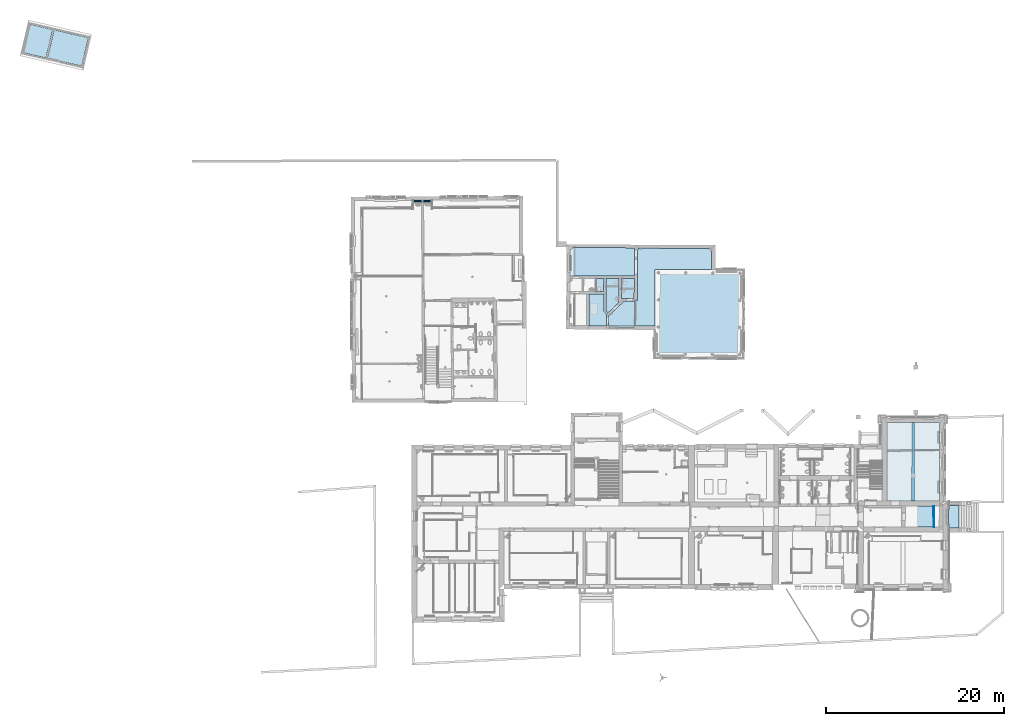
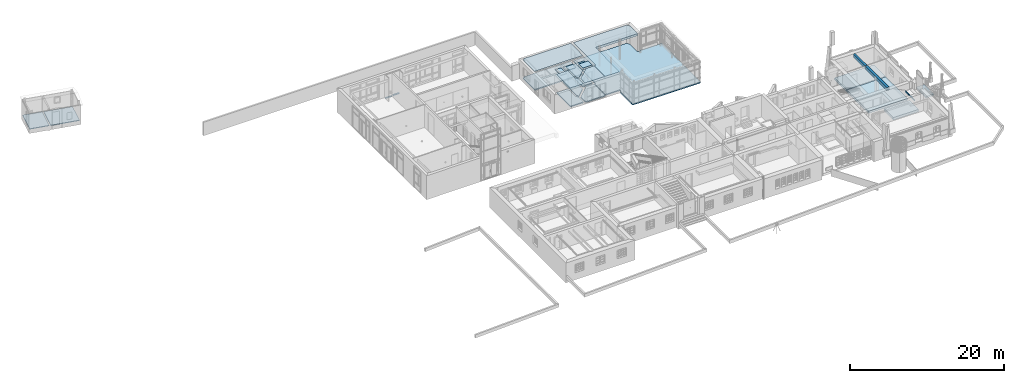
# One storey, part 14 of 196: 26 slabs.
"""IFC2X3 building model written with IfcOpenShell, lengths in metres."""

from ifc_helpers import new_model, entity, si_unit, converted_unit, derived_unit, money_unit, direction, frame, origin_with_axes, place, context, subcontext, project, spatial, polyline, outline, extrude, material, layer, layer_set, layer_usage, type_object, element, save


model = new_model("IFC2X3")

# Units and contexts
model_context = context("Model", 3, precision=1e-05, world=origin_with_axes(), true_north=direction((0.0, 1.0)))
body_context = subcontext(model_context, "Body", "Model", "MODEL_VIEW")
ifc_project = project(units=[si_unit("LENGTHUNIT", "METRE"), si_unit("AREAUNIT", "SQUARE_METRE"), si_unit("VOLUMEUNIT", "CUBIC_METRE"), converted_unit("PLANEANGLEUNIT", "DEGREE", entity("IfcPlaneAngleMeasure", 0.0174532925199), si_unit("PLANEANGLEUNIT", "RADIAN"), dimensions=[0, 0, 0, 0, 0, 0, 0]), money_unit("EUR"), converted_unit("TIMEUNIT", "Year", entity("IfcTimeMeasure", 31556926.0), si_unit("TIMEUNIT", "SECOND"), dimensions=[0, 0, 1, 0, 0, 0, 0]), si_unit("MASSUNIT", "GRAM", prefix="KILO"), si_unit("THERMODYNAMICTEMPERATUREUNIT", "DEGREE_CELSIUS"), si_unit("LUMINOUSINTENSITYUNIT", "LUMEN"), si_unit("ENERGYUNIT", "JOULE", prefix="MEGA"), derived_unit("THERMALCONDUCTANCEUNIT", [(si_unit("POWERUNIT", "WATT"), 1), (si_unit("LENGTHUNIT", "METRE"), -1), (si_unit("THERMODYNAMICTEMPERATUREUNIT", "KELVIN"), -1)]), derived_unit("SPECIFICHEATCAPACITYUNIT", [(si_unit("ENERGYUNIT", "JOULE"), 1), (si_unit("MASSUNIT", "GRAM", prefix="KILO"), -1), (si_unit("THERMODYNAMICTEMPERATUREUNIT", "KELVIN"), -1)]), derived_unit("MASSDENSITYUNIT", [(si_unit("MASSUNIT", "GRAM", prefix="KILO"), 1), (si_unit("VOLUMEUNIT", "CUBIC_METRE"), -1)])], contexts=[model_context])

# Site, building, storey
site_placement = place(None, origin_with_axes())
site = spatial("IfcSite", under=ifc_project, at=site_placement, Name="Gelände", CompositionType="ELEMENT")
building_placement = place(site_placement, origin_with_axes())
building = spatial("IfcBuilding", under=site, at=building_placement, Name="Gebäude", CompositionType="ELEMENT")
storey_placement = place(building_placement, frame((0.0, 0.0, -3.0), z_axis=(0.0, 0.0, 1.0), x_axis=(1.0, 0.0, 0.0)))
storey = spatial("IfcBuildingStorey", under=building, at=storey_placement, Name="KELLERGESCHOSS", CompositionType="ELEMENT", Elevation=-3.0)

# Slabs
ifc_material_1 = material(Name="05_ALLGEMEIN - TRAGENDE BAUTEILE")
ifc_layer_1 = layer(ifc_material_1, 0.33, ventilated="UNKNOWN")
ifc_layer_set_1 = layer_set([ifc_layer_1], Name="05_ALLGEMEIN - TRAGENDE BAUTEILE 0.33")
ifc_layer_usage_1 = layer_usage(ifc_layer_set_1, "AXIS3", "NEGATIVE", 0.33)
slab_type_1 = type_object("IfcSlabType", Name="05_ALLGEMEIN - TRAGENDE BAUTEILE 330", PredefinedType="NOTDEFINED")
slab_1_placement = place(storey_placement, frame((25.2270900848, 25.4170093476, -0.03), z_axis=(0.0, 0.0, 1.0), x_axis=(1.0, 0.0, 0.0)))
element("IfcSlab", 1, at=slab_1_placement, inside=storey, type_object=slab_type_1, material=ifc_layer_usage_1, Name="Belag-005", PredefinedType="NOTDEFINED", context=body_context, shape_type="SweptSolid", body=[
    extrude(outline(polyline([(0.0, 0.0), (-0.000826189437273, -5.59675638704), (5.87001330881, -5.62821278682), (5.86809462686, 0.0660130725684), (0.0, 0.0)])), frame((0.0, 0.0, -0.33), z_axis=(0.0, 0.0, 1.0), x_axis=(1.0, 0.0, 0.0)), (0.0, 0.0, 1.0), 0.33),
])
ifc_layer_2 = layer(ifc_material_1, 0.35, ventilated="UNKNOWN")
ifc_layer_set_2 = layer_set([ifc_layer_2], Name="05_ALLGEMEIN - TRAGENDE BAUTEILE 0.35")
ifc_layer_usage_2 = layer_usage(ifc_layer_set_2, "AXIS3", "NEGATIVE", 0.35)
slab_type_2 = type_object("IfcSlabType", Name="05_ALLGEMEIN - TRAGENDE BAUTEILE 350", PredefinedType="NOTDEFINED")
slab_2_placement = place(storey_placement, frame((-6.01418529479, 40.5972754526, 3.15), z_axis=(0.0, 0.0, 1.0), x_axis=(1.0, 0.0, 0.0)))
element("IfcSlab", 2, at=slab_2_placement, inside=storey, type_object=slab_type_2, material=ifc_layer_usage_2, Name="Belag-009", PredefinedType="NOTDEFINED", context=body_context, shape_type="SweptSolid", body=[
    extrude(outline(polyline([(0.0, 0.0), (-0.0184592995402, -1.11730356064), (2.94322210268, -1.14171704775), (2.96984695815, 1.68217723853), (1.74452241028, 1.66157661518), (0.0, 0.0)])), origin_with_axes(), (0.0, 0.0, 1.0), 0.35),
])
ifc_layer_3 = layer(ifc_material_1, 0.21, ventilated="UNKNOWN")
ifc_layer_set_3 = layer_set([ifc_layer_3], Name="05_ALLGEMEIN - TRAGENDE BAUTEILE 0.21")
ifc_layer_usage_3 = layer_usage(ifc_layer_set_3, "AXIS3", "NEGATIVE", 0.21)
slab_type_3 = type_object("IfcSlabType", Name="05_ALLGEMEIN - TRAGENDE BAUTEILE 210", PredefinedType="NOTDEFINED")
slab_3_placement = place(storey_placement, frame((-10.1119303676, 48.2605082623, 3.29), z_axis=(0.0, 0.0, 1.0), x_axis=(1.0, 0.0, 0.0)))
element("IfcSlab", 3, at=slab_3_placement, inside=storey, type_object=slab_type_3, material=ifc_layer_usage_3, Name="Belag-005", PredefinedType="NOTDEFINED", context=body_context, shape_type="SweptSolid", body=[
    extrude(outline(polyline([(0.0, 0.0), (0.00303302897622, -0.163163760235), (-0.234338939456, -0.158524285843), (-0.251513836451, -3.22836900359), (1.15072332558, -3.2279998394), (6.97866815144, -3.22646548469), (7.0003282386, -0.0401684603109), (0.0, 0.0)])), origin_with_axes(), (0.0, 0.0, 1.0), 0.21),
])
ifc_layer_4 = layer(ifc_material_1, 0.17, ventilated="UNKNOWN")
ifc_layer_set_4 = layer_set([ifc_layer_4], Name="05_ALLGEMEIN - TRAGENDE BAUTEILE 0.17")
ifc_layer_usage_4 = layer_usage(ifc_layer_set_4, "AXIS3", "NEGATIVE", 0.17)
slab_type_4 = type_object("IfcSlabType", Name="05_ALLGEMEIN - TRAGENDE BAUTEILE 170", PredefinedType="NOTDEFINED")
slab_4_placement = place(storey_placement, frame((-25.8898027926, 53.5630437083, 0.42), z_axis=(0.0, 0.0, 1.0), x_axis=(1.0, 0.0, 0.0)))
element("IfcSlab", 4, at=slab_4_placement, inside=storey, type_object=slab_type_4, material=ifc_layer_usage_4, Name="Belag-007", PredefinedType="NOTDEFINED", context=body_context, shape_type="SweptSolid", body=[
    extrude(outline(polyline([(0.0, 0.0), (-0.891822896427, -0.0052686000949), (-0.890639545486, -0.157434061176), (0.0, -0.156927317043), (0.0, 0.0)])), frame((0.0, 0.0, -0.17), z_axis=(0.0, 0.0, 1.0), x_axis=(1.0, 0.0, 0.0)), (0.0, 0.0, 1.0), 0.17),
])
ifc_layer_usage_5 = layer_usage(ifc_layer_set_4, "AXIS3", "NEGATIVE", 0.17)
slab_5_placement = place(storey_placement, frame((-2.75188747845, 48.1771400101, 0.61), z_axis=(0.0, 0.0, 1.0), x_axis=(1.0, 0.0, 0.0)))
element("IfcSlab", 5, at=slab_5_placement, inside=storey, type_object=slab_type_4, material=ifc_layer_usage_5, Name="Belag-008", PredefinedType="NOTDEFINED", context=body_context, shape_type="SweptSolid", body=[
    extrude(outline(polyline([(0.0, 0.0), (-0.0400630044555, -5.89344406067), (-0.23243867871, -5.89667835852), (-0.259077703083, -8.72207617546), (1.90869729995, -8.73994538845), (1.90515288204, -9.16993078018), (1.77674345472, -9.16887228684), (1.76117753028, -12.3925113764), (11.9331722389, -12.4651372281), (11.9848443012, -2.29175273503), (8.73729445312, -2.27346098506), (8.73783220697, -2.40534629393), (8.27783621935, -2.40342499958), (8.2862325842, -0.393168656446), (7.95628604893, -0.0223752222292), (0.0, 0.0)])), frame((0.0, 0.0, -0.17), z_axis=(0.0, 0.0, 1.0), x_axis=(1.0, 0.0, 0.0)), (0.0, 0.0, 1.0), 0.17),
])
ifc_layer_usage_6 = layer_usage(ifc_layer_set_4, "AXIS3", "NEGATIVE", 0.17)
slab_6_placement = place(storey_placement, frame((-6.01418529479, 40.5972754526, 0.61), z_axis=(0.0, 0.0, 1.0), x_axis=(1.0, 0.0, 0.0)))
element("IfcSlab", 6, at=slab_6_placement, inside=storey, type_object=slab_type_4, material=ifc_layer_usage_6, Name="Belag-008", PredefinedType="NOTDEFINED", context=body_context, shape_type="SweptSolid", body=[
    extrude(outline(polyline([(0.0, 0.0), (-0.0184592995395, -1.11730357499), (0.0272299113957, -1.11768019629), (0.0253163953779, -1.28027011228), (2.85915778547, -1.30981047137), (2.85973533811, -1.14102885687), (2.94322210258, -1.14171704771), (2.96984695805, 1.68217723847), (1.74452241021, 1.66157661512), (0.0, 0.0)])), frame((0.0, 0.0, -0.17), z_axis=(0.0, 0.0, 1.0), x_axis=(1.0, 0.0, 0.0)), (0.0, 0.0, 1.0), 0.17),
])
ifc_layer_usage_7 = layer_usage(ifc_layer_set_4, "AXIS3", "NEGATIVE", 0.17)
slab_7_placement = place(storey_placement, frame((-10.3462693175, 48.1019839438, 0.61), z_axis=(0.0, 0.0, 1.0), x_axis=(1.0, 0.0, 0.0)))
element("IfcSlab", 7, at=slab_7_placement, inside=storey, type_object=slab_type_4, material=ifc_layer_usage_7, Name="Belag-008", PredefinedType="NOTDEFINED", context=body_context, shape_type="SweptSolid", body=[
    extrude(outline(polyline([(0.0, 0.0), (-0.0171748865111, -3.06984468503), (1.38506230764, -3.06947554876), (7.21300712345, -3.06794119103), (7.23466718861, 0.118355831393), (0.23433896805, 0.158524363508), (0.237372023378, -0.00463948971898), (0.0, 0.0)])), frame((0.0, 0.0, -0.17), z_axis=(0.0, 0.0, 1.0), x_axis=(1.0, 0.0, 0.0)), (0.0, 0.0, 1.0), 0.17),
])
ifc_layer_5 = layer(ifc_material_1, 0.2, ventilated="UNKNOWN")
ifc_layer_set_5 = layer_set([ifc_layer_5], Name="05_ALLGEMEIN - TRAGENDE BAUTEILE 0.2")
ifc_layer_usage_8 = layer_usage(ifc_layer_set_5, "AXIS3", "NEGATIVE", 0.2)
slab_type_5 = type_object("IfcSlabType", Name="05_ALLGEMEIN - TRAGENDE BAUTEILE 200", PredefinedType="NOTDEFINED")
slab_8_placement = place(storey_placement, frame((-8.23558256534, 43.0463947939, 3.3), z_axis=(0.0, 0.0, 1.0), x_axis=(1.0, 0.0, 0.0)))
element("IfcSlab", 8, at=slab_8_placement, inside=storey, type_object=slab_type_5, material=ifc_layer_usage_8, Name="Belag-008", PredefinedType="NOTDEFINED", context=body_context, shape_type="SweptSolid", body=[
    extrude(outline(polyline([(0.0, 0.0), (-0.0157443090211, -3.60813609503), (1.95888432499, -3.62441319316), (1.96293789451, -3.56444458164), (1.98359822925, -2.31391525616), (1.92609994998, -2.25013885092), (1.68135181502, -1.97866735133), (1.69184433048, -0.00149829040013), (0.0, 0.0)])), origin_with_axes(), (0.0, 0.0, 1.0), 0.2),
])
ifc_layer_6 = layer(ifc_material_1, 0.36, ventilated="UNKNOWN")
ifc_layer_set_6 = layer_set([ifc_layer_6], Name="05_ALLGEMEIN - TRAGENDE BAUTEILE 0.36")
ifc_layer_usage_9 = layer_usage(ifc_layer_set_6, "AXIS3", "NEGATIVE", 0.36)
slab_type_6 = type_object("IfcSlabType", Name="05_ALLGEMEIN - TRAGENDE BAUTEILE 360", PredefinedType="NOTDEFINED")
slab_9_placement = place(storey_placement, frame((-2.98432616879, 42.2804616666, 3.14), z_axis=(0.0, 0.0, 1.0), x_axis=(1.0, 0.0, 0.0)))
element("IfcSlab", 9, at=slab_9_placement, inside=storey, type_object=slab_type_6, material=ifc_layer_usage_9, Name="Belag-010", PredefinedType="NOTDEFINED", context=body_context, shape_type="SweptSolid", body=[
    extrude(outline(polyline([(0.0, 0.0), (-0.0266390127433, -2.82539780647), (2.14116503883, -2.84326728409), (2.17822809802, 3.49054782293), (8.51027486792, 3.49325333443), (8.51867127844, 5.50350972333), (8.18872468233, 5.87430310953), (0.232438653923, 5.89667834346), (0.192375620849, 0.00323426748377), (0.0, 0.0)])), origin_with_axes(), (0.0, 0.0, 1.0), 0.36),
])
ifc_layer_7 = layer(ifc_material_1, 0.1, ventilated="UNKNOWN")
ifc_layer_set_7 = layer_set([ifc_layer_7], Name="05_ALLGEMEIN - TRAGENDE BAUTEILE 0.1")
ifc_layer_usage_10 = layer_usage(ifc_layer_set_7, "AXIS3", "NEGATIVE", 0.1)
slab_type_7 = type_object("IfcSlabType", Name="05_ALLGEMEIN - TRAGENDE BAUTEILE 100", PredefinedType="NOTDEFINED")
slab_10_placement = place(storey_placement, frame((-27.9206073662, 53.4049609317, 0.35), z_axis=(0.0, 0.0, 1.0), x_axis=(1.0, 0.0, 0.0)))
element("IfcSlab", 10, at=slab_10_placement, inside=storey, type_object=slab_type_7, material=ifc_layer_usage_10, Name="Belag-008", PredefinedType="NOTDEFINED", context=body_context, shape_type="SweptSolid", body=[
    extrude(outline(polyline([(0.0, 0.0), (0.890158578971, 0.000506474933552), (0.888985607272, 0.151337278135), (0.000498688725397, 0.146088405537), (0.0, 0.0)])), frame((0.0, 0.0, -0.1), z_axis=(0.0, 0.0, 1.0), x_axis=(1.0, 0.0, 0.0)), (0.0, 0.0, 1.0), 0.1),
])
ifc_layer_usage_11 = layer_usage(ifc_layer_set_7, "AXIS3", "NEGATIVE", 0.1)
slab_11_placement = place(storey_placement, frame((-71.0076553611, 73.313521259, 0.645), z_axis=(0.0, 0.0, 1.0), x_axis=(1.0, 0.0, 0.0)))
element("IfcSlab", 11, at=slab_11_placement, inside=storey, type_object=slab_type_7, material=ifc_layer_usage_11, Name="Belag-008", PredefinedType="NOTDEFINED", context=body_context, shape_type="SweptSolid", body=[
    extrude(outline(polyline([(0.0, 0.0), (-0.756910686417, -3.18830040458), (1.83672037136, -3.78527384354), (2.61550828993, -0.603147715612), (0.0, 0.0)])), frame((0.0, 0.0, -0.1), z_axis=(0.0, 0.0, 1.0), x_axis=(1.0, 0.0, 0.0)), (0.0, 0.0, 1.0), 0.1),
])
ifc_layer_usage_12 = layer_usage(ifc_layer_set_7, "AXIS3", "NEGATIVE", 0.1)
slab_12_placement = place(storey_placement, frame((-68.9998188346, 69.4888617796, 0.63), z_axis=(0.0, 0.0, 1.0), x_axis=(1.0, 0.0, 0.0)))
element("IfcSlab", 12, at=slab_12_placement, inside=storey, type_object=slab_type_7, material=ifc_layer_usage_12, Name="Belag-008", PredefinedType="NOTDEFINED", context=body_context, shape_type="SweptSolid", body=[
    extrude(outline(polyline([(0.0, 0.0), (3.86045572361, -0.888557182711), (4.60445413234, 2.29983622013), (0.778770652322, 3.18205559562), (0.0, 0.0)])), frame((0.0, 0.0, -0.1), z_axis=(0.0, 0.0, 1.0), x_axis=(1.0, 0.0, 0.0)), (0.0, 0.0, 1.0), 0.1),
])
ifc_layer_8 = layer(ifc_material_1, 0.13, ventilated="UNKNOWN")
ifc_layer_set_8 = layer_set([ifc_layer_8], Name="05_ALLGEMEIN - TRAGENDE BAUTEILE 0.13")
ifc_layer_usage_13 = layer_usage(ifc_layer_set_8, "AXIS3", "NEGATIVE", 0.13)
slab_type_8 = type_object("IfcSlabType", Name="05_ALLGEMEIN - TRAGENDE BAUTEILE 130", PredefinedType="NOTDEFINED")
slab_13_placement = place(storey_placement, frame((30.4338383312, 16.885732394, 1.61), z_axis=(0.0, 0.0, 1.0), x_axis=(1.0, 0.0, 0.0)))
element("IfcSlab", 13, at=slab_13_placement, inside=storey, type_object=slab_type_8, material=ifc_layer_usage_13, Name="Belag-011", PredefinedType="NOTDEFINED", context=body_context, shape_type="SweptSolid", body=[
    extrude(outline(polyline([(0.0, 0.0), (0.0783243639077, -8.99518075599e-05), (0.065665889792, 2.3568522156), (-0.00714418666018, 2.35724233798), (0.0, 0.0)])), origin_with_axes(), (0.0, 0.0, 1.0), 0.13),
])
ifc_layer_9 = layer(ifc_material_1, 0.34, ventilated="UNKNOWN")
ifc_layer_set_9 = layer_set([ifc_layer_9], Name="05_ALLGEMEIN - TRAGENDE BAUTEILE 0.34")
ifc_layer_usage_14 = layer_usage(ifc_layer_set_9, "AXIS3", "NEGATIVE", 0.34)
slab_type_9 = type_object("IfcSlabType", Name="05_ALLGEMEIN - TRAGENDE BAUTEILE 340", PredefinedType="NOTDEFINED")
slab_14_placement = place(storey_placement, frame((25.2275604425, 28.6035319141, -0.02), z_axis=(0.0, 0.0, 1.0), x_axis=(1.0, 0.0, 0.0)))
element("IfcSlab", 14, at=slab_14_placement, inside=storey, type_object=slab_type_9, material=ifc_layer_usage_14, Name="Belag-006", PredefinedType="NOTDEFINED", context=body_context, shape_type="SweptSolid", body=[
    extrude(outline(polyline([(0.0, 0.0), (-0.000455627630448, -3.08651606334), (5.88759049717, -3.02027852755), (5.88657132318, 0.00435281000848), (0.0, 0.0)])), frame((0.0, 0.0, -0.34), z_axis=(0.0, 0.0, 1.0), x_axis=(1.0, 0.0, 0.0)), (0.0, 0.0, 1.0), 0.34),
])
ifc_layer_10 = layer(ifc_material_1, 0.16, ventilated="UNKNOWN")
ifc_layer_set_10 = layer_set([ifc_layer_10], Name="05_ALLGEMEIN - TRAGENDE BAUTEILE 0.16")
ifc_layer_usage_15 = layer_usage(ifc_layer_set_10, "AXIS3", "NEGATIVE", 0.16)
slab_type_10 = type_object("IfcSlabType", Name="05_ALLGEMEIN - TRAGENDE BAUTEILE 160", PredefinedType="NOTDEFINED")
slab_15_placement = place(storey_placement, frame((-8.2513268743, 39.4382586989, 0.6), z_axis=(0.0, 0.0, 1.0), x_axis=(1.0, 0.0, 0.0)))
element("IfcSlab", 15, at=slab_15_placement, inside=storey, type_object=slab_type_10, material=ifc_layer_usage_15, Name="Belag-008", PredefinedType="NOTDEFINED", context=body_context, shape_type="SweptSolid", body=[
    extrude(outline(polyline([(0.0, 0.0), (1.97818764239, -0.0163064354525), (1.99934302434, 1.29422029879), (1.69709612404, 1.6294687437), (1.7075886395, 3.60663780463), (0.0157443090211, 3.60813609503), (0.0, 0.0)])), frame((0.0, 0.0, -0.16), z_axis=(0.0, 0.0, 1.0), x_axis=(1.0, 0.0, 0.0)), (0.0, 0.0, 1.0), 0.16),
])
ifc_layer_usage_16 = layer_usage(ifc_layer_set_10, "AXIS3", "NEGATIVE", 0.16)
slab_16_placement = place(storey_placement, frame((-4.58453824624, 44.7736606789, 0.6), z_axis=(0.0, 0.0, 1.0), x_axis=(1.0, 0.0, 0.0)))
element("IfcSlab", 16, at=slab_16_placement, inside=storey, type_object=slab_type_10, material=ifc_layer_usage_16, Name="Belag-009", PredefinedType="NOTDEFINED", context=body_context, shape_type="SweptSolid", body=[
    extrude(outline(polyline([(0.0, 0.0), (-0.0102979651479, -2.25023741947), (0.456396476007, -2.24239116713), (1.43437420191, -2.22594901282), (1.44950855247, 0.000381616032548), (0.125812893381, 3.31344265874e-05), (0.0, 0.0)])), frame((0.0, 0.0, -0.16), z_axis=(0.0, 0.0, 1.0), x_axis=(1.0, 0.0, 0.0)), (0.0, 0.0, 1.0), 0.16),
])
ifc_layer_usage_17 = layer_usage(ifc_layer_set_10, "AXIS3", "NEGATIVE", 0.16)
slab_17_placement = place(storey_placement, frame((-6.31373606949, 43.0446928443, 0.6), z_axis=(0.0, 0.0, 1.0), x_axis=(1.0, 0.0, 0.0)))
element("IfcSlab", 17, at=slab_17_placement, inside=storey, type_object=slab_type_10, material=ifc_layer_usage_17, Name="Belag-009", PredefinedType="NOTDEFINED", context=body_context, shape_type="SweptSolid", body=[
    extrude(outline(polyline([(0.0, 0.0), (-0.0100252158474, -1.88911310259), (0.216241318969, -2.14008508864), (1.42676490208, -0.987117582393), (1.43919444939, 1.72889148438), (0.0091729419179, 1.72851501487), (0.0, 0.0)])), frame((0.0, 0.0, -0.16), z_axis=(0.0, 0.0, 1.0), x_axis=(1.0, 0.0, 0.0)), (0.0, 0.0, 1.0), 0.16),
])
ifc_layer_11 = layer(ifc_material_1, 0.28, ventilated="UNKNOWN")
ifc_layer_set_11 = layer_set([ifc_layer_11], Name="05_ALLGEMEIN - TRAGENDE BAUTEILE 0.28")
ifc_layer_usage_18 = layer_usage(ifc_layer_set_11, "AXIS3", "NEGATIVE", 0.28)
slab_type_11 = type_object("IfcSlabType", Name="05_ALLGEMEIN - TRAGENDE BAUTEILE 280", PredefinedType="NOTDEFINED")
slab_18_placement = place(storey_placement, frame((-6.30918612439, 43.902070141, 3.22), z_axis=(0.0, 0.0, 1.0), x_axis=(1.0, 0.0, 0.0)))
element("IfcSlab", 18, at=slab_18_placement, inside=storey, type_object=slab_type_11, material=ifc_layer_usage_18, Name="Belag-006", PredefinedType="NOTDEFINED", context=body_context, shape_type="SweptSolid", body=[
    extrude(outline(polyline([(0.0, 0.0), (-0.0145751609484, -2.74649040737), (0.211691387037, -2.99746238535), (1.42221497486, -1.84449486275), (1.43064435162, -0.0025671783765), (0.0, 0.0)])), origin_with_axes(), (0.0, 0.0, 1.0), 0.28),
])
ifc_layer_usage_19 = layer_usage(ifc_layer_set_11, "AXIS3", "NEGATIVE", 0.28)
slab_19_placement = place(storey_placement, frame((-4.58987174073, 43.6082245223, 3.22), z_axis=(0.0, 0.0, 1.0), x_axis=(1.0, 0.0, 0.0)))
element("IfcSlab", 19, at=slab_19_placement, inside=storey, type_object=slab_type_11, material=ifc_layer_usage_19, Name="Belag-007", PredefinedType="NOTDEFINED", context=body_context, shape_type="SweptSolid", body=[
    extrude(outline(polyline([(0.0, 0.0), (-0.0049644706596, -1.08480126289), (1.43970769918, -1.06051284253), (1.44705962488, 0.0209886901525), (0.0, 0.0)])), origin_with_axes(), (0.0, 0.0, 1.0), 0.28),
])
ifc_layer_12 = layer(ifc_material_1, 0.385307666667, ventilated="UNKNOWN")
ifc_layer_set_12 = layer_set([ifc_layer_12], Name="05_ALLGEMEIN - TRAGENDE BAUTEILE 0.385308")
ifc_layer_usage_20 = layer_usage(ifc_layer_set_12, "AXIS3", "NEGATIVE", 0.385307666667)
slab_type_12 = type_object("IfcSlabType", Name="05_ALLGEMEIN - TRAGENDE BAUTEILE 385", PredefinedType="NOTDEFINED")
slab_20_placement = place(storey_placement, frame((27.2709101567, 19.2598836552, 0.0253076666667), z_axis=(0.0, 0.0, 1.0), x_axis=(1.0, 0.0, 0.0)))
element("IfcSlab", 20, at=slab_20_placement, inside=storey, type_object=slab_type_12, material=ifc_layer_usage_20, Name="Belag-004", PredefinedType="NOTDEFINED", context=body_context, shape_type="SweptSolid", body=[
    extrude(outline(polyline([(0.0, 0.0), (-0.0155136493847, -2.37050097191), (3.79196659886, -2.37487368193), (3.82511552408, -0.0204952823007), (0.0, 0.0)])), frame((0.0, 0.0, -0.385307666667), z_axis=(0.0, 0.0, 1.0), x_axis=(1.0, 0.0, 0.0)), (0.0, 0.0, 1.0), 0.385307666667),
])
ifc_material_2 = material(Name="01_ALLGEMEIN - BAUTEIL")
ifc_layer_13 = layer(ifc_material_2, 0.06, ventilated="UNKNOWN")
ifc_layer_set_13 = layer_set([ifc_layer_13], Name="01_ALLGEMEIN - BAUTEIL 0.06")
ifc_layer_usage_21 = layer_usage(ifc_layer_set_13, "AXIS3", "NEGATIVE", 0.06)
slab_type_13 = type_object("IfcSlabType", Name="01_ALLGEMEIN - BAUTEIL 60", PredefinedType="NOTDEFINED")
slab_21_placement = place(storey_placement, frame((-6.30456314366, 44.7732078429, 2.82), z_axis=(0.0, 0.0, 1.0), x_axis=(1.0, 0.0, 0.0)))
element("IfcSlab", 21, at=slab_21_placement, inside=storey, type_object=slab_type_13, material=ifc_layer_usage_21, Name="Belag-004", PredefinedType="NOTDEFINED", context=body_context, shape_type="SweptSolid", body=[
    extrude(outline(polyline([(0.0, 0.0), (-0.00478218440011, -0.901137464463), (1.42588408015, -0.903704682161), (1.43002152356, 0.000376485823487), (0.0, 0.0)])), origin_with_axes(), (0.0, 0.0, 1.0), 0.06),
])
ifc_layer_usage_22 = layer_usage(ifc_layer_set_13, "AXIS3", "NEGATIVE", 0.06)
slab_22_placement = place(storey_placement, frame((-7.43594164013, 44.7729099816, 2.84), z_axis=(0.0, 0.0, 1.0), x_axis=(1.0, 0.0, 0.0)))
element("IfcSlab", 22, at=slab_22_placement, inside=storey, type_object=slab_type_13, material=ifc_layer_usage_22, Name="Belag-005", PredefinedType="NOTDEFINED", context=body_context, shape_type="SweptSolid", body=[
    extrude(outline(polyline([(0.0, 0.0), (-0.0168638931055, -1.45720830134), (0.863635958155, -1.45798806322), (0.871374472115, 0.000229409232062), (0.0, 0.0)])), origin_with_axes(), (0.0, 0.0, 1.0), 0.06),
])
ifc_layer_usage_23 = layer_usage(ifc_layer_set_13, "AXIS3", "NEGATIVE", 0.06)
slab_23_placement = place(storey_placement, frame((-4.45872534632, 44.7736938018, 2.75), z_axis=(0.0, 0.0, 1.0), x_axis=(1.0, 0.0, 0.0)))
element("IfcSlab", 23, at=slab_23_placement, inside=storey, type_object=slab_type_13, material=ifc_layer_usage_23, Name="Belag-006", PredefinedType="NOTDEFINED", context=body_context, shape_type="SweptSolid", body=[
    extrude(outline(polyline([(0.0, 0.0), (-0.0105214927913, -0.942673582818), (-0.130135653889, -0.944609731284), (-0.131146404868, -1.16546928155), (1.31591322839, -1.14448058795), (1.32369565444, 0.000348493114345), (0.0, 0.0)])), origin_with_axes(), (0.0, 0.0, 1.0), 0.06),
])
ifc_layer_14 = layer(ifc_material_1, 0.46, ventilated="UNKNOWN")
ifc_layer_set_14 = layer_set([ifc_layer_14], Name="05_ALLGEMEIN - TRAGENDE BAUTEILE 0.46")
ifc_layer_usage_24 = layer_usage(ifc_layer_set_14, "AXIS3", "NEGATIVE", 0.46)
slab_type_14 = type_object("IfcSlabType", Name="05_ALLGEMEIN - TRAGENDE BAUTEILE 460", PredefinedType="NOTDEFINED")
slab_24_placement = place(storey_placement, frame((27.9964784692, 25.4481635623, 2.33), z_axis=(0.0, 0.0, 1.0), x_axis=(1.0, 0.0, 0.0)))
element("IfcSlab", 24, at=slab_24_placement, inside=storey, type_object=slab_type_14, material=ifc_layer_usage_24, Name="Belag-011", PredefinedType="NOTDEFINED", context=body_context, shape_type="SweptSolid", body=[
    extrude(outline(polyline([(0.0, 0.0), (-0.0202211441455, -5.6426190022), (0.301064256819, -5.64439567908), (0.311391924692, 0.00350300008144), (0.0, 0.0)])), origin_with_axes(), (0.0, 0.0, 1.0), 0.46),
])
ifc_layer_usage_25 = layer_usage(ifc_layer_set_14, "AXIS3", "NEGATIVE", 0.46)
slab_25_placement = place(storey_placement, frame((28.0181365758, 28.6055953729, 2.33), z_axis=(0.0, 0.0, 1.0), x_axis=(1.0, 0.0, 0.0)))
element("IfcSlab", 25, at=slab_25_placement, inside=storey, type_object=slab_type_14, material=ifc_layer_usage_25, Name="Belag-012", PredefinedType="NOTDEFINED", context=body_context, shape_type="SweptSolid", body=[
    extrude(outline(polyline([(0.0, 0.0), (-0.00889136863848, -3.05728186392), (0.289916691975, -3.05392042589), (0.295501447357, 0.000218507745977), (0.0, 0.0)])), origin_with_axes(), (0.0, 0.0, 1.0), 0.46),
])
ifc_layer_15 = layer(ifc_material_1, 0.2445, ventilated="UNKNOWN")
ifc_layer_set_15 = layer_set([ifc_layer_15], Name="05_ALLGEMEIN - TRAGENDE BAUTEILE 0.2445")
ifc_layer_usage_26 = layer_usage(ifc_layer_set_15, "AXIS3", "NEGATIVE", 0.2445)
slab_type_15 = type_object("IfcSlabType", Name="05_ALLGEMEIN - TRAGENDE BAUTEILE 245", PredefinedType="NOTDEFINED")
slab_26_placement = place(storey_placement, frame((32.1203648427, 19.299912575, 1.4955), z_axis=(0.0, 0.0, 1.0), x_axis=(1.0, 0.0, 0.0)))
element("IfcSlab", 26, at=slab_26_placement, inside=storey, type_object=slab_type_15, material=ifc_layer_usage_26, Name="Belag-011", PredefinedType="NOTDEFINED", context=body_context, shape_type="SweptSolid", body=[
    extrude(outline(polyline([(0.0, 0.0), (-0.00191719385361, -2.51391041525), (1.19155006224, -2.52517312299), (1.19155006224, -0.00828910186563), (0.0, 0.0)])), origin_with_axes(), (0.0, 0.0, 1.0), 0.2445),
])

save(model, "model.ifc")
